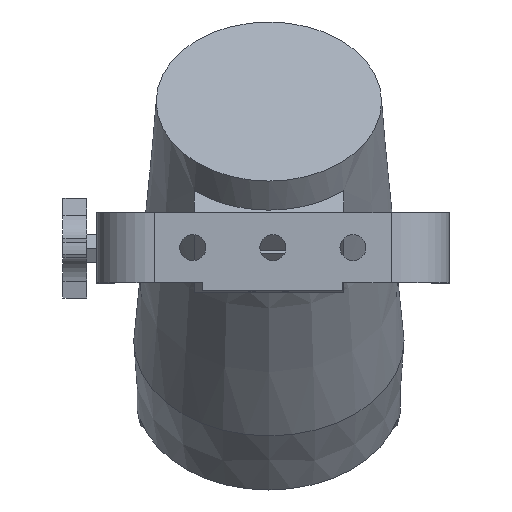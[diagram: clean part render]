
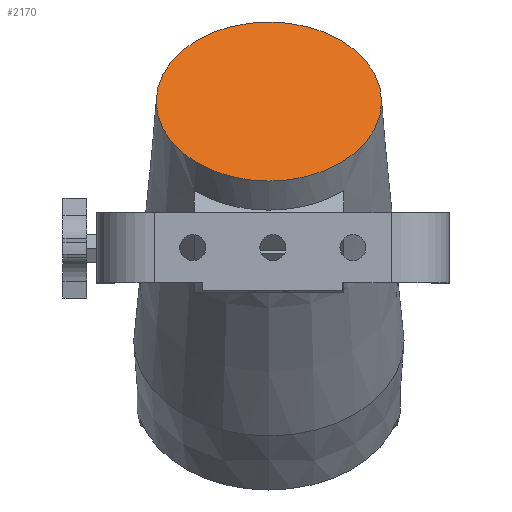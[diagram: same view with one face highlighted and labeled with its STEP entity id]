
A CAD part, top view. The second image highlights one B-rep face of the part: STEP entity #2170.
In plain terms, the highlighted planar face has unit normal (0, 0.707, 0.707) as drawn and (0, 0, 1) by its records, which use the part's own axes.
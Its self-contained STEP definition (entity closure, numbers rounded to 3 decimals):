
#619=FACE_OUTER_BOUND('',#748,.T.);
#748=EDGE_LOOP('',(#1981,#1982));
#815=CIRCLE('',#2343,56.292);
#816=CIRCLE('',#2344,56.292);
#992=VERTEX_POINT('',#3486);
#993=VERTEX_POINT('',#3488);
#1274=EDGE_CURVE('',#992,#993,#815,.T.);
#1275=EDGE_CURVE('',#993,#992,#816,.T.);
#1981=ORIENTED_EDGE('',*,*,#1275,.F.);
#1982=ORIENTED_EDGE('',*,*,#1274,.F.);
#2058=PLANE('',#2401);
#2170=ADVANCED_FACE('',(#619),#2058,.T.);
#2343=AXIS2_PLACEMENT_3D('',#3489,#2855,#2856);
#2344=AXIS2_PLACEMENT_3D('',#3490,#2857,#2858);
#2401=AXIS2_PLACEMENT_3D('',#3839,#3022,#3023);
#2855=DIRECTION('center_axis',(0.,0.,-1.));
#2856=DIRECTION('ref_axis',(1.,0.,0.));
#2857=DIRECTION('center_axis',(0.,0.,-1.));
#2858=DIRECTION('ref_axis',(1.,0.,0.));
#3022=DIRECTION('center_axis',(0.,0.,1.));
#3023=DIRECTION('ref_axis',(1.,0.,0.));
#3486=CARTESIAN_POINT('',(0.,-56.292,11.5));
#3488=CARTESIAN_POINT('',(0.,56.292,11.5));
#3489=CARTESIAN_POINT('Origin',(0.,0.,11.5));
#3490=CARTESIAN_POINT('Origin',(0.,0.,11.5));
#3839=CARTESIAN_POINT('Origin',(0.,56.292,11.5));
